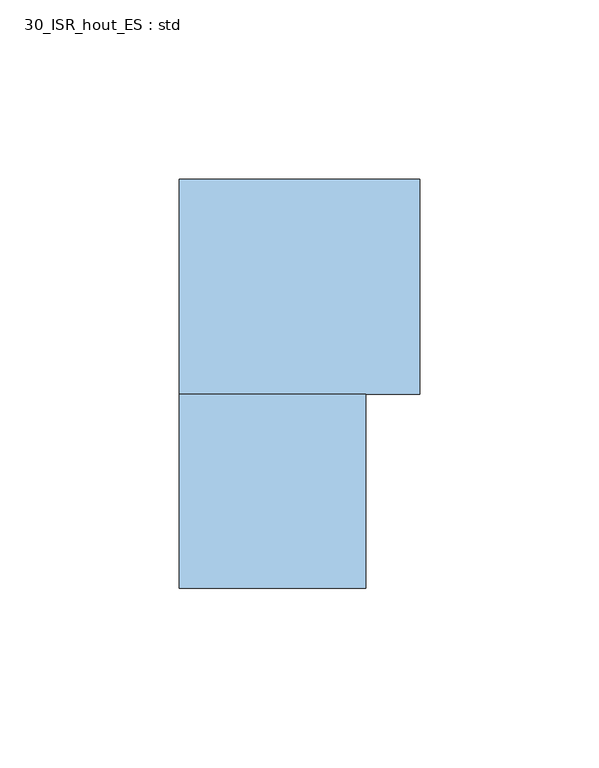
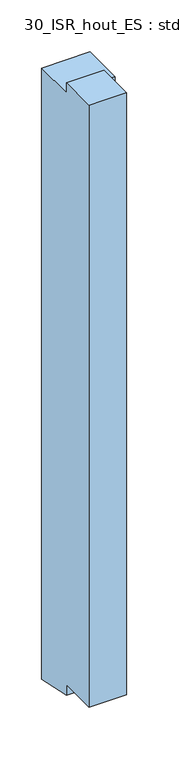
"""IFC4 building model written with IfcOpenShell, lengths in millimetres: window geometry, 30_ISR_hout_ES : std."""

from ifc_helpers import new_model, si_unit, origin, place, context, project, spatial, faceted_brep, source, transform, mapped, element, save


def window_30_isr_hout_es_std_54ae1afe(model_context):
    return source(origin(), model_context, "Body", "Brep", [
        faceted_brep([(67.0, 0.0, 54.2466063), (0.0, 0.0, 54.2466063), (0.0, 0.0, 948.0), (67.0, 0.0, 948.0), (67.0, -60.0, 67.0), (67.0, -60.0, 948.0), (0.0, -114.0, 82.0), (0.0, -114.0, 963.0), (0.0, -60.0, 963.0), (0.0, -60.0, 948.0), (0.0, -60.0, 67.0), (0.0, -60.0, 82.0), (52.0, -114.0, 963.0), (52.0, -114.0, 82.0), (52.0, -60.0, 963.0), (52.0, -60.0, 82.0), (52.0, -60.0, 948.0)], [[[0, 1, 2, 3]], [[4, 0, 3, 5]], [[6, 7, 8, 9, 2, 1, 10, 11]], [[12, 7, 6, 13]], [[7, 12, 14, 8]], [[1, 0, 4, 10]], [[15, 11, 10, 4, 5, 16]], [[11, 15, 13, 6]], [[14, 12, 13, 15, 16]], [[16, 9, 8, 14]], [[9, 16, 5, 3, 2]]]),
    ])


if __name__ == "__main__":
    model = new_model("IFC4")
    model_context = context("Model", 3, world=origin())
    ifc_project = project(units=[si_unit("LENGTHUNIT", "METRE", prefix="MILLI")], contexts=[model_context])
    site = spatial("IfcSite", under=ifc_project)
    building = spatial("IfcBuilding", under=site)
    placement = place(None, origin())
    window_30_isr_hout_es_std_shape = window_30_isr_hout_es_std_54ae1afe(model_context)
    element("IfcWindow", 1, ObjectType="30_ISR_hout_ES : std", at=placement, inside=building, context=model_context, shape_type="MappedRepresentation", body=[
        mapped(window_30_isr_hout_es_std_shape, transform((0.0, 0.0, 0.0), x_axis=(1.0, 0.0, 0.0), y_axis=(0.0, 1.0, 0.0), z_axis=(0.0, 0.0, 1.0))),
    ])
    save(model, "model.ifc")
